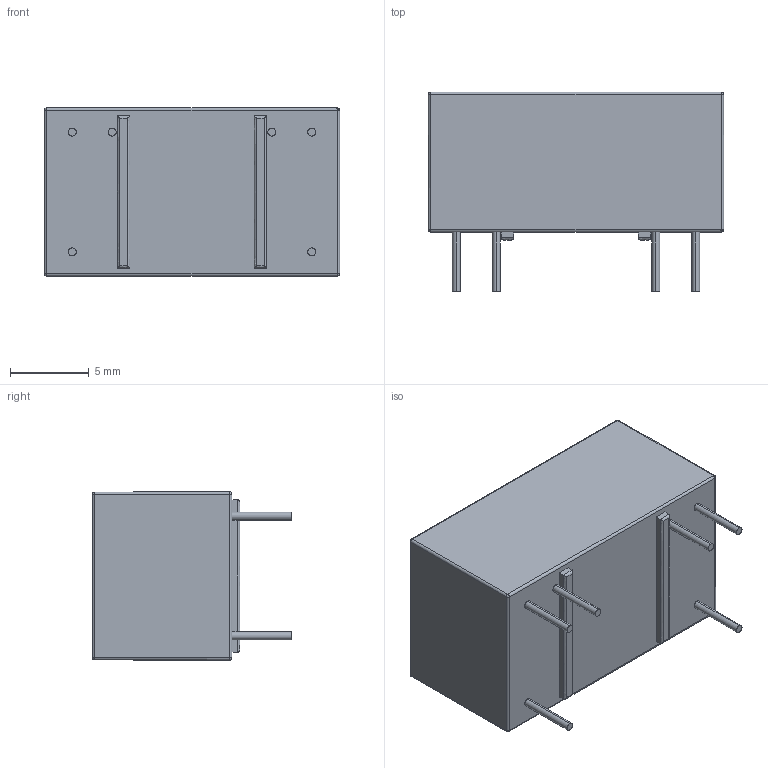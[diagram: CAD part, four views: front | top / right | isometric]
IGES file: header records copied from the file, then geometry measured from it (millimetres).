
Start section: SolidWorks IGES file using analytic representation for surfaces
Global section: file name: C:\Documents and Settings\alex.leming\Desktop\Replacement Models\97-1-A-X-XX.IGS; native system: SolidWorks 2009; preprocessor: SolidWorks 2009; author: alex.leming; date: 101126.152038; units: millimetre
Bounding box: 18.8 x 12.7 x 10.7 mm (x, y, z)
Surface area: 971.5 mm2 (no closed solid volume)
Topology: 0 solids, 0 shells, 664 faces, 6256 edges, 6249 vertices
Faces by surface type: bspline 618, revolution 46
